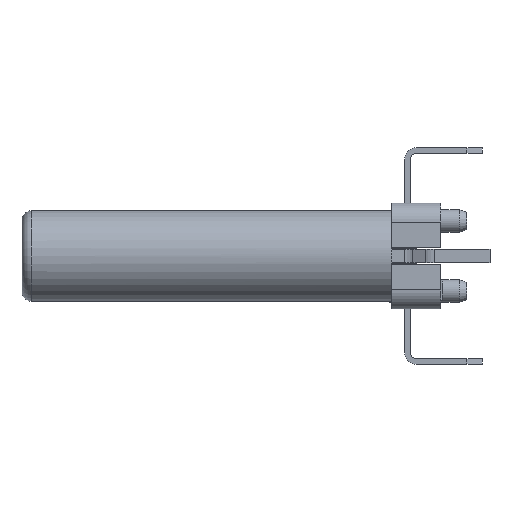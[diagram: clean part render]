
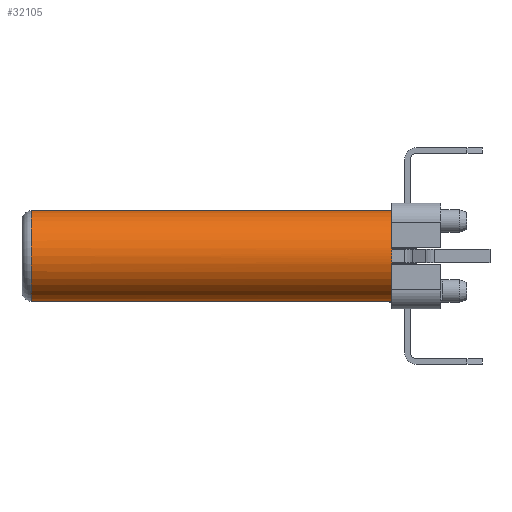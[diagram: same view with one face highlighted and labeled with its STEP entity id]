
A CAD part, front view. The second image highlights one B-rep face of the part: STEP entity #32105.
In plain terms, the highlighted cylindrical face has radius 1.2 mm (diameter 2.4 mm), a partial arc.
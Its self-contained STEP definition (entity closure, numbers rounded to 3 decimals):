
#4456=DIRECTION('',(-1.,0.,0.));
#4457=VECTOR('',#4456,9.55);
#4458=CARTESIAN_POINT('',(22.356,-5.253,-1.15));
#4459=LINE('',#4458,#4457);
#4460=DIRECTION('',(1.,0.,0.));
#4461=VECTOR('',#4460,9.55);
#4462=CARTESIAN_POINT('',(12.806,-5.253,1.25));
#4463=LINE('',#4462,#4461);
#4464=CARTESIAN_POINT('',(22.356,-5.253,
0.05));
#4465=DIRECTION('',(-1.,0.,0.));
#4466=DIRECTION('',(0.,-0.982,0.187));
#4467=AXIS2_PLACEMENT_3D('',#4464,#4465,#4466);
#12564=CARTESIAN_POINT('',(12.806,-5.253,0.05));
#12565=DIRECTION('',(1.,0.,0.));
#12566=DIRECTION('',(0.,-1.,0.));
#12567=AXIS2_PLACEMENT_3D('',#12564,#12565,#12566);
#12579=CARTESIAN_POINT('',(12.806,-5.253,0.05));
#12580=DIRECTION('',(1.,0.,0.));
#12581=DIRECTION('',(0.,0.,1.));
#12582=AXIS2_PLACEMENT_3D('',#12579,#12580,#12581);
#12942=CARTESIAN_POINT('',(22.356,-5.253,
0.05));
#12943=DIRECTION('',(-1.,0.,0.));
#12944=DIRECTION('',(0.,0.,-1.));
#12945=AXIS2_PLACEMENT_3D('',#12942,#12943,#12944);
#13942=CARTESIAN_POINT('',(22.356,-5.253,
0.05));
#13943=DIRECTION('',(-1.,0.,0.));
#13944=DIRECTION('',(0.,-0.982,-0.188));
#13945=AXIS2_PLACEMENT_3D('',#13942,#13943,#13944);
#13947=CARTESIAN_POINT('',(22.356,-5.253,
0.05));
#13948=DIRECTION('',(-1.,0.,0.));
#13949=DIRECTION('',(0.,-1.,0.));
#13950=AXIS2_PLACEMENT_3D('',#13947,#13948,#13949);
#21812=CARTESIAN_POINT('',(12.806,-5.253,-1.15));
#21813=VERTEX_POINT('',#21812);
#21814=CARTESIAN_POINT('',(22.356,-5.253,-1.15));
#21815=VERTEX_POINT('',#21814);
#22083=CARTESIAN_POINT('',(22.356,-6.432,
0.275));
#22085=VERTEX_POINT('',#22083);
#22090=CARTESIAN_POINT('',(22.356,-6.432,
-0.175));
#22091=VERTEX_POINT('',#22090);
#22092=CARTESIAN_POINT('',(22.356,-6.453,0.05));
#22093=VERTEX_POINT('',#22092);
#22102=CARTESIAN_POINT('',(22.356,-5.253,1.25));
#22103=VERTEX_POINT('',#22102);
#22116=CARTESIAN_POINT('',(12.806,-6.453,
0.05));
#22117=VERTEX_POINT('',#22116);
#22118=CARTESIAN_POINT('',(12.806,-5.253,1.25));
#22119=VERTEX_POINT('',#22118);
#32083=CARTESIAN_POINT('',(22.547,-5.253,
0.05));
#32084=DIRECTION('',(-1.,0.,0.));
#32085=DIRECTION('',(0.,-1.,0.));
#32086=AXIS2_PLACEMENT_3D('',#32083,#32084,#32085);
#32087=CYLINDRICAL_SURFACE('',#32086,1.2);
#32089=ORIENTED_EDGE('',*,*,#32088,.F.);
#32091=ORIENTED_EDGE('',*,*,#32090,.F.);
#32093=ORIENTED_EDGE('',*,*,#32092,.F.);
#32095=ORIENTED_EDGE('',*,*,#32094,.F.);
#32097=ORIENTED_EDGE('',*,*,#32096,.T.);
#32099=ORIENTED_EDGE('',*,*,#32098,.F.);
#32101=ORIENTED_EDGE('',*,*,#32100,.F.);
#32102=ORIENTED_EDGE('',*,*,#31850,.T.);
#32103=EDGE_LOOP('',(#32089,#32091,#32093,#32095,#32097,#32099,#32101,#32102));
#32104=FACE_OUTER_BOUND('',#32103,.F.);
#4468=CIRCLE('',#4467,1.2);
#12568=CIRCLE('',#12567,1.2);
#12583=CIRCLE('',#12582,1.2);
#12946=CIRCLE('',#12945,1.2);
#13946=CIRCLE('',#13945,1.2);
#13951=CIRCLE('',#13950,1.2);
#31850=EDGE_CURVE('',#22119,#22103,#4463,.T.);
#32088=EDGE_CURVE('',#22085,#22103,#4468,.T.);
#32090=EDGE_CURVE('',#22093,#22085,#13951,.T.);
#32092=EDGE_CURVE('',#22091,#22093,#13946,.T.);
#32094=EDGE_CURVE('',#21815,#22091,#12946,.T.);
#32096=EDGE_CURVE('',#21815,#21813,#4459,.T.);
#32098=EDGE_CURVE('',#22117,#21813,#12568,.T.);
#32100=EDGE_CURVE('',#22119,#22117,#12583,.T.);
#32105=ADVANCED_FACE('',(#32104),#32087,.T.);
